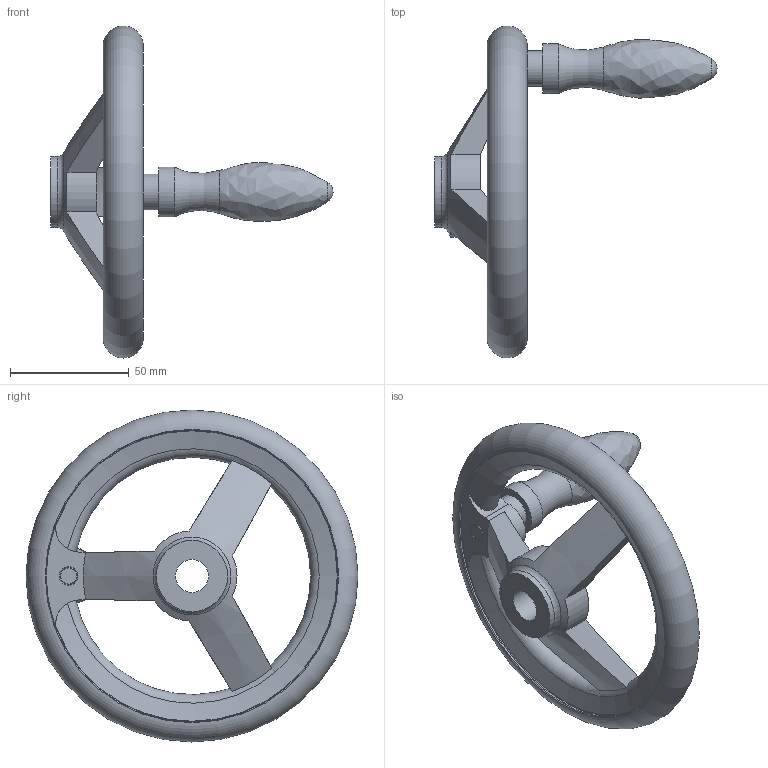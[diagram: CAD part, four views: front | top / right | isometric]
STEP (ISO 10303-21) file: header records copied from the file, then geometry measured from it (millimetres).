
FILE_DESCRIPTION( ( 'STEP AP203' ), '1' );
FILE_NAME( 'C:/Temp/Ganter_Step_05_03_2020/data/1_3/din_950/din_950_b/din_950_b_d/Handwheel DIN 950-AL-140-B14-D.stp', '2020-03-05T10:29:40', ( 'License CC BY-ND 4.0' ), ( 'CADENAS' ), ' ', 'PARTsolutions', ' ' );
FILE_SCHEMA( ( 'CONFIG_CONTROL_DESIGN' ) );
Length unit declared in the file: millimetre
Products named in the file (1): _Handwheel DIN 950-AL-140-B14-D
Bounding box: 119 x 140 x 140 mm (x, y, z)
Volume: 151828.2 mm3; surface area: 37904.9 mm2
Topology: 1 solids, 1 shells, 44 faces, 119 edges, 75 vertices
Faces by surface type: cylinder 13, plane 12, torus 11, cone 6, bspline 1, sphere 1
Full cylindrical faces by diameter (mm): 14 x1, 15 x1, 21 x1, 30 x2, 123 x2
Entity records: 1643 total; most frequent: CARTESIAN_POINT 624, DIRECTION 196, ORIENTED_EDGE 184, AXIS2_PLACEMENT_3D 93, EDGE_CURVE 92, EDGE_LOOP 71, VERTEX_POINT 71, FACE_OUTER_BOUND 60
